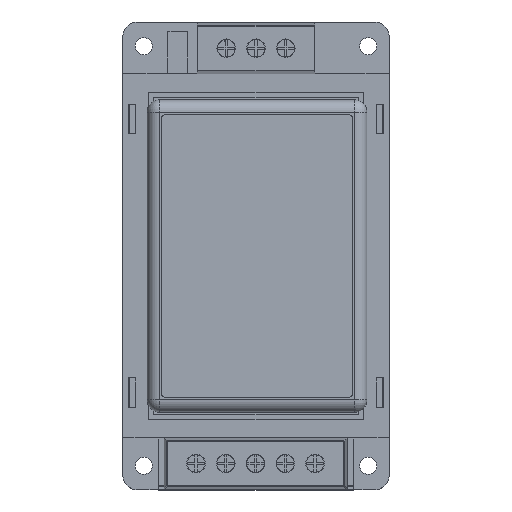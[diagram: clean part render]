
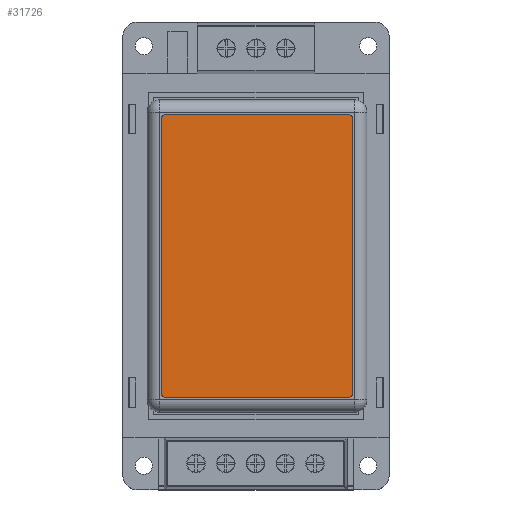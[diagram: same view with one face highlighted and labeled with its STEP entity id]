
A CAD part, top view. The second image highlights one B-rep face of the part: STEP entity #31726.
In plain terms, the highlighted planar face has unit normal (0, 0, 1).
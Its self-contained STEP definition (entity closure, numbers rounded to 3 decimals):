
#30855=DIRECTION('',(-1.,0.,0.));
#30856=VECTOR('',#30855,56.);
#30857=CARTESIAN_POINT('',(28.,19.65,23.2));
#30858=LINE('',#30857,#30856);
#30867=DIRECTION('',(0.,1.,0.));
#30868=VECTOR('',#30867,37.3);
#30869=CARTESIAN_POINT('',(29.,-18.65,23.2));
#30870=LINE('',#30869,#30868);
#30879=DIRECTION('',(1.,0.,0.));
#30880=VECTOR('',#30879,56.);
#30881=CARTESIAN_POINT('',(-28.,-19.65,23.2));
#30882=LINE('',#30881,#30880);
#30891=DIRECTION('',(0.,-1.,0.));
#30892=VECTOR('',#30891,37.3);
#30893=CARTESIAN_POINT('',(-29.,18.65,23.2));
#30894=LINE('',#30893,#30892);
#30895=CARTESIAN_POINT('',(-28.,18.65,23.2));
#30896=DIRECTION('',(0.,0.,-1.));
#30897=DIRECTION('',(-1.,0.,0.));
#30898=AXIS2_PLACEMENT_3D('',#30895,#30896,#30897);
#30900=CARTESIAN_POINT('',(28.,18.65,23.2));
#30901=DIRECTION('',(0.,0.,-1.));
#30902=DIRECTION('',(0.,1.,0.));
#30903=AXIS2_PLACEMENT_3D('',#30900,#30901,#30902);
#30905=CARTESIAN_POINT('',(28.,-18.65,23.2));
#30906=DIRECTION('',(0.,0.,-1.));
#30907=DIRECTION('',(1.,0.,0.));
#30908=AXIS2_PLACEMENT_3D('',#30905,#30906,#30907);
#30910=CARTESIAN_POINT('',(-28.,-18.65,23.2));
#30911=DIRECTION('',(0.,0.,-1.));
#30912=DIRECTION('',(0.,-1.,0.));
#30913=AXIS2_PLACEMENT_3D('',#30910,#30911,#30912);
#31081=CARTESIAN_POINT('',(-28.,19.65,23.2));
#31082=VERTEX_POINT('',#31081);
#31083=CARTESIAN_POINT('',(-29.,18.65,23.2));
#31084=VERTEX_POINT('',#31083);
#31085=CARTESIAN_POINT('',(28.,19.65,23.2));
#31086=VERTEX_POINT('',#31085);
#31087=CARTESIAN_POINT('',(29.,18.65,23.2));
#31088=VERTEX_POINT('',#31087);
#31089=CARTESIAN_POINT('',(29.,-18.65,23.2));
#31090=VERTEX_POINT('',#31089);
#31091=CARTESIAN_POINT('',(28.,-19.65,23.2));
#31092=VERTEX_POINT('',#31091);
#31093=CARTESIAN_POINT('',(-28.,-19.65,23.2));
#31094=VERTEX_POINT('',#31093);
#31095=CARTESIAN_POINT('',(-29.,-18.65,23.2));
#31096=VERTEX_POINT('',#31095);
#31711=CARTESIAN_POINT('',(0.,0.,23.2));
#31712=DIRECTION('',(0.,0.,1.));
#31713=DIRECTION('',(1.,0.,0.));
#31714=AXIS2_PLACEMENT_3D('',#31711,#31712,#31713);
#31715=PLANE('',#31714);
#31716=ORIENTED_EDGE('',*,*,#31551,.T.);
#31717=ORIENTED_EDGE('',*,*,#31573,.F.);
#31718=ORIENTED_EDGE('',*,*,#31594,.T.);
#31719=ORIENTED_EDGE('',*,*,#31615,.F.);
#31720=ORIENTED_EDGE('',*,*,#31636,.T.);
#31721=ORIENTED_EDGE('',*,*,#31657,.F.);
#31722=ORIENTED_EDGE('',*,*,#31678,.T.);
#31723=ORIENTED_EDGE('',*,*,#31698,.F.);
#31724=EDGE_LOOP('',(#31716,#31717,#31718,#31719,#31720,#31721,#31722,#31723));
#31725=FACE_OUTER_BOUND('',#31724,.F.);
#30899=CIRCLE('',#30898,1.);
#30904=CIRCLE('',#30903,1.);
#30909=CIRCLE('',#30908,1.);
#30914=CIRCLE('',#30913,1.);
#31551=EDGE_CURVE('',#31084,#31082,#30899,.T.);
#31573=EDGE_CURVE('',#31086,#31082,#30858,.T.);
#31594=EDGE_CURVE('',#31086,#31088,#30904,.T.);
#31615=EDGE_CURVE('',#31090,#31088,#30870,.T.);
#31636=EDGE_CURVE('',#31090,#31092,#30909,.T.);
#31657=EDGE_CURVE('',#31094,#31092,#30882,.T.);
#31678=EDGE_CURVE('',#31094,#31096,#30914,.T.);
#31698=EDGE_CURVE('',#31084,#31096,#30894,.T.);
#31726=ADVANCED_FACE('',(#31725),#31715,.T.);
